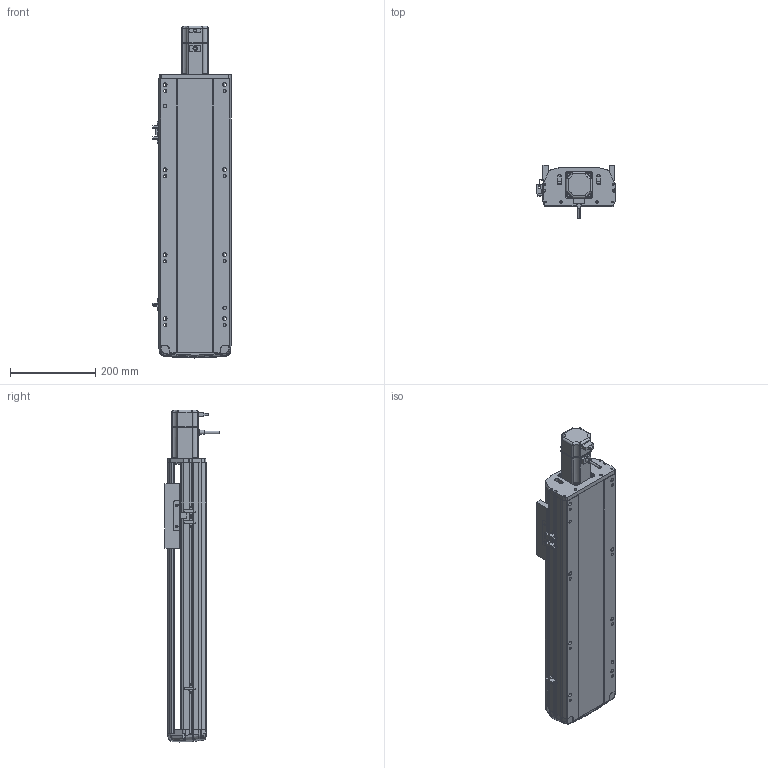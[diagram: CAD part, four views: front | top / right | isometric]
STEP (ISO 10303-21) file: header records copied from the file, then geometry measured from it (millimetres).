
FILE_DESCRIPTION (( 'STEP AP214' ), '1' );
FILE_NAME ('RTH17-XX-400-E-M40-C4（方程式）.STEP', '2025-10-24T05:39:24', ( '' ), ( '' ), 'SwSTEP 2.0', 'SolidWorks 2018', '' );
FILE_SCHEMA (( 'AUTOMOTIVE_DESIGN' ));
Length unit declared in the file: millimetre
Products named in the file (9): N_RTH17-E-004丝杆螺母连接座^RTH17-XX-XX-E-M40-C4（方程式）; RTH17-XX-400-E-M40-C4（方程式）; N_RTH17-GY-001P^RTH17-XX-XX-E-M40-C4（方程式）; N_M40^RTH17-XX-XX-E-M40-C4（方程式）; N_RTH17-E-007上盖^RTH17-XX-XX-E-M40-C4（方程式）; N_OMRON EE-SX672 換覜ん^RTH17-XX-XX-E-M40-C4ㄗ源最宒ㄘ; N_RTH17-E-008-P40电机板^RTH17-XX-XX-E-M40-C4（方程式）; N_RTH-BL-012 感应片(外置)^RTH17-XX-XX-E-M40-C4（方程式）; N_RTH17-E-011底座^RTH17-XX-XX-E-M40-C4（方程式）
Assembly tree (10 placements, depth 2):
  RTH17-XX-400-E-M40-C4（方程式）
    N_RTH17-E-011底座^RTH17-XX-XX-E-M40-C4（方程式）
    N_RTH17-E-007上盖^RTH17-XX-XX-E-M40-C4（方程式）
    N_RTH17-E-008-P40电机板^RTH17-XX-XX-E-M40-C4（方程式）
    N_OMRON EE-SX672 換覜ん^RTH17-XX-XX-E-M40-C4ㄗ源最宒ㄘ  x3
    N_RTH-BL-012 感应片(外置)^RTH17-XX-XX-E-M40-C4（方程式）
    N_RTH17-E-004丝杆螺母连接座^RTH17-XX-XX-E-M40-C4（方程式）
    N_RTH17-GY-001P^RTH17-XX-XX-E-M40-C4（方程式）
    N_M40^RTH17-XX-XX-E-M40-C4（方程式）
Bounding box: 183.5 x 127 x 780.77 mm (x, y, z)
Volume: 5688196.6 mm3; surface area: 790229.4 mm2
Topology: 9 solids, 11 shells, 1649 faces, 4603 edges, 3002 vertices
Faces by surface type: plane 825, cylinder 457, bspline 330, cone 28, torus 9
Entity records: 48029 total; most frequent: CARTESIAN_POINT 19270, ORIENTED_EDGE 6230, DIRECTION 5175, EDGE_CURVE 3119, VERTEX_POINT 2038, LINE 1759, VECTOR 1759, AXIS2_PLACEMENT_3D 1708
